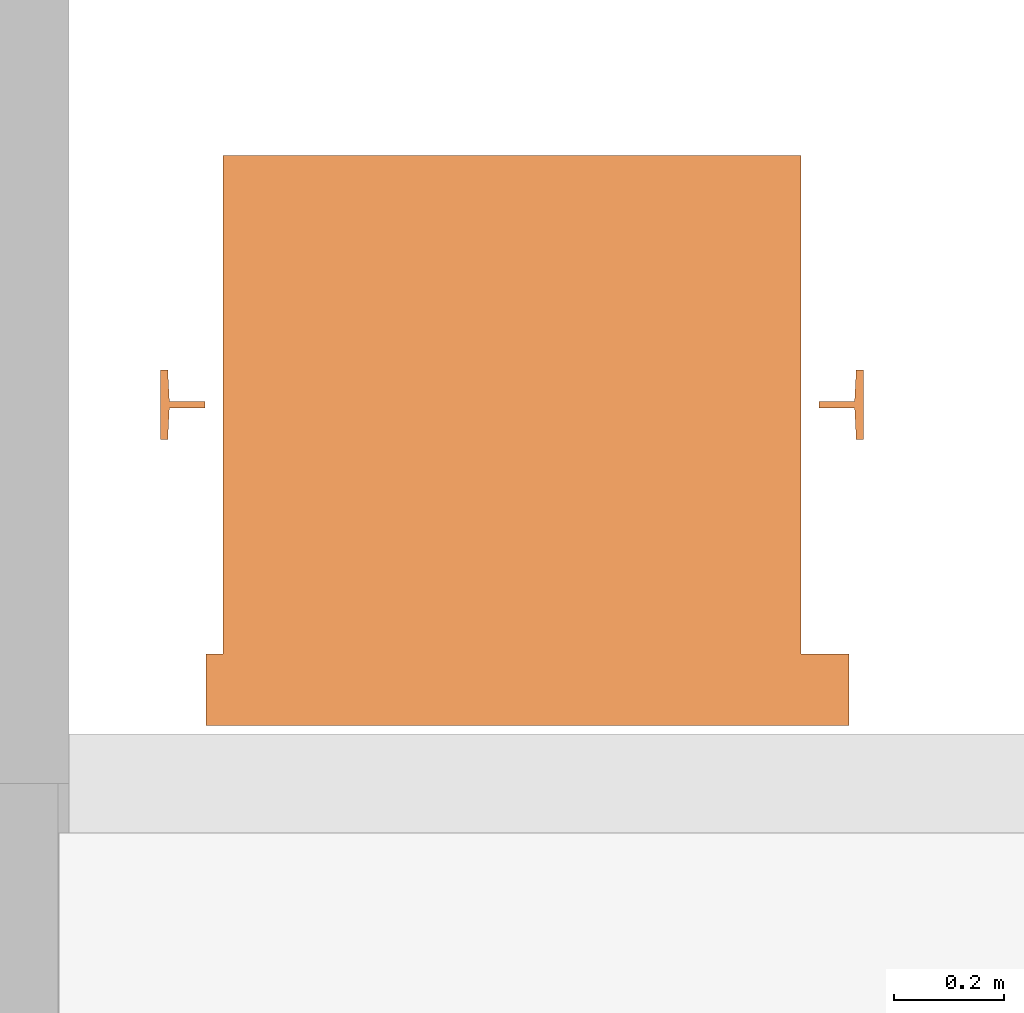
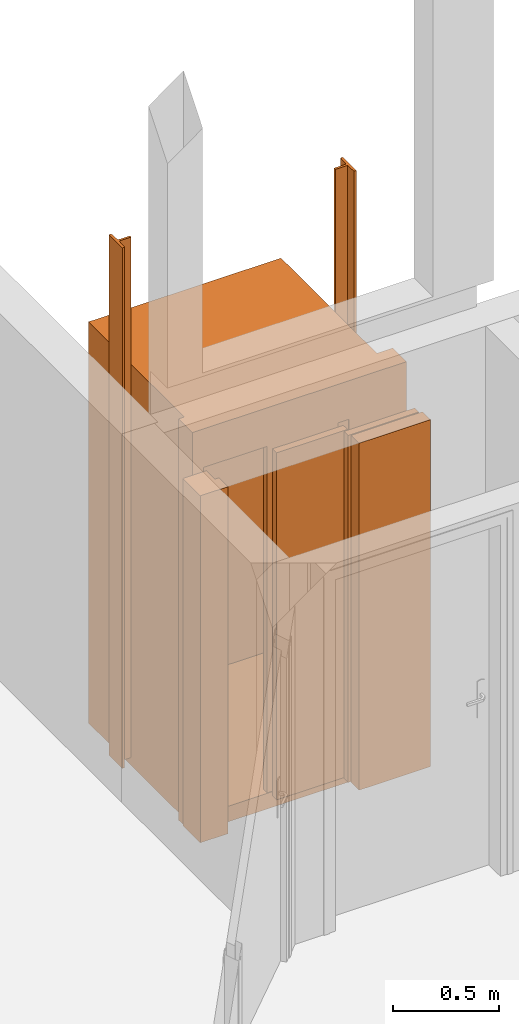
# One storey, part 28 of 32: 1 proxy.
"""IFC4 building model written with IfcOpenShell, lengths in metres."""

from ifc_helpers import new_model, entity, si_unit, converted_unit, derived_unit, direction, frame, origin, place, context, subcontext, project, spatial, polygons, source, transform, mapped, material, type_object, type_shapes, element, save


model = new_model("IFC4")

# Units and contexts
model_context = context("Model", 3, precision=1e-05, world=origin(), true_north=direction((6.12303176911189e-17, 1.0)))
body_context = subcontext(model_context, "Body", "Model", "MODEL_VIEW")
ifc_project = project(units=[si_unit("LENGTHUNIT", "METRE"), si_unit("AREAUNIT", "SQUARE_METRE"), si_unit("VOLUMEUNIT", "CUBIC_METRE"), converted_unit("PLANEANGLEUNIT", "DEGREE", entity("IfcRatioMeasure", 0.0174532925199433), si_unit("PLANEANGLEUNIT", "RADIAN"), dimensions=[0, 0, 0, 0, 0, 0, 0]), si_unit("MASSUNIT", "GRAM", prefix="KILO"), derived_unit("MASSDENSITYUNIT", [(si_unit("MASSUNIT", "GRAM", prefix="KILO"), 1), (si_unit("LENGTHUNIT", "METRE"), -3)]), derived_unit("MOMENTOFINERTIAUNIT", [(si_unit("LENGTHUNIT", "METRE"), 4)]), si_unit("TIMEUNIT", "SECOND"), si_unit("FREQUENCYUNIT", "HERTZ"), si_unit("THERMODYNAMICTEMPERATUREUNIT", "DEGREE_CELSIUS"), derived_unit("THERMALTRANSMITTANCEUNIT", [(si_unit("MASSUNIT", "GRAM", prefix="KILO"), 1), (si_unit("THERMODYNAMICTEMPERATUREUNIT", "KELVIN"), -1), (si_unit("TIMEUNIT", "SECOND"), -3)]), derived_unit("VOLUMETRICFLOWRATEUNIT", [(si_unit("LENGTHUNIT", "METRE"), 3), (si_unit("TIMEUNIT", "SECOND"), -1)]), si_unit("ELECTRICCURRENTUNIT", "AMPERE"), si_unit("ELECTRICVOLTAGEUNIT", "VOLT"), si_unit("POWERUNIT", "WATT"), si_unit("FORCEUNIT", "NEWTON", prefix="KILO"), si_unit("ILLUMINANCEUNIT", "LUX"), si_unit("LUMINOUSFLUXUNIT", "LUMEN"), si_unit("LUMINOUSINTENSITYUNIT", "CANDELA"), derived_unit("USERDEFINED", [(si_unit("MASSUNIT", "GRAM", prefix="KILO"), -1), (si_unit("LENGTHUNIT", "METRE"), -2), (si_unit("TIMEUNIT", "SECOND"), 3), (si_unit("LUMINOUSFLUXUNIT", "LUMEN"), 1)]), derived_unit("LINEARVELOCITYUNIT", [(si_unit("LENGTHUNIT", "METRE"), 1), (si_unit("TIMEUNIT", "SECOND"), -1)]), si_unit("PRESSUREUNIT", "PASCAL"), derived_unit("USERDEFINED", [(si_unit("LENGTHUNIT", "METRE"), -2), (si_unit("MASSUNIT", "GRAM", prefix="KILO"), 1), (si_unit("TIMEUNIT", "SECOND"), -2)]), derived_unit("LINEARFORCEUNIT", [(si_unit("MASSUNIT", "GRAM", prefix="KILO"), 1), (si_unit("LENGTHUNIT", "METRE"), 1), (si_unit("TIMEUNIT", "SECOND"), -2), (si_unit("LENGTHUNIT", "METRE"), -1)]), derived_unit("PLANARFORCEUNIT", [(si_unit("MASSUNIT", "GRAM", prefix="KILO"), 1), (si_unit("LENGTHUNIT", "METRE"), 1), (si_unit("TIMEUNIT", "SECOND"), -2), (si_unit("LENGTHUNIT", "METRE"), -2)])], contexts=[model_context])

# Site, building, storey
site_placement = place(None, origin())
site = spatial("IfcSite", under=ifc_project, at=site_placement, Name="Default", CompositionType="ELEMENT")
building_placement = place(site_placement, origin())
building = spatial("IfcBuilding", under=site, at=building_placement, Name="HOTEL CONSULAIRE BOULOGNE SUR MER", CompositionType="ELEMENT")
storey_placement = place(building_placement, frame((0.0, 0.0, -2.70343668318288)))
storey = spatial("IfcBuildingStorey", under=building, at=storey_placement, Name="SS1", CompositionType="ELEMENT", Elevation=-2.70343668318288)

# Proxy
ifc_material = material(Name="<Unnamed>")
building_element_proxy_type = type_object("IfcBuildingElementProxyType", Name="Ascenseur 4 personnes - Mur:1000 x 880mm", PredefinedType="NOTDEFINED", material=ifc_material)
shared_shape = source(origin(), body_context, "Body", "Tessellation", [
    polygons([(-0.400000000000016, -1.1400000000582, 2.222), (0.649999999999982, -1.14000000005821, 2.222), (0.649999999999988, -0.235000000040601, 2.222), (0.68100000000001, -0.235000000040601, 2.222), (0.681000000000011, -0.105000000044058, 2.222), (-0.486499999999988, -0.105000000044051, 2.222), (-0.486499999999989, -0.235000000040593, 2.222), (-0.40000000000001, -0.235000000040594, 2.222), (-0.400000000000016, -1.1400000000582, 2.2), (-0.40000000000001, -0.235000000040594, 2.2), (-0.486499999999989, -0.235000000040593, 2.2), (-0.486499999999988, -0.105000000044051, 2.2), (0.681000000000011, -0.105000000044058, 2.2), (0.68100000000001, -0.235000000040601, 2.2), (0.649999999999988, -0.235000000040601, 2.2), (0.649999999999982, -1.14000000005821, 2.2)], [[[8, 1, 2, 3, 4, 5, 6, 7]], [[15, 16, 9, 10, 11, 12, 13, 14]], [[2, 1, 9, 16]], [[4, 3, 15, 14]], [[8, 7, 11, 10]], [[3, 2, 16, 15]], [[5, 4, 14, 13]], [[6, 5, 13, 12]], [[7, 6, 12, 11]], [[1, 8, 10, 9]]], closed=True),
    polygons([(-0.400000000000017, -1.1400000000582, 0.0), (0.64999999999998, -1.14000000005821, 0.0), (0.649999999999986, -0.235000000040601, 0.0), (0.68100000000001, -0.235000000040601, 0.0), (0.681000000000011, -0.105000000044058, 0.0), (-0.486499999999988, -0.105000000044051, 0.0), (-0.486499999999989, -0.235000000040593, 0.0), (-0.400000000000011, -0.235000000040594, 0.0), (-0.400000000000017, -1.1400000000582, -0.09), (-0.400000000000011, -0.235000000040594, -0.09), (-0.486499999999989, -0.235000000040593, -0.09), (-0.486499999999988, -0.105000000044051, -0.09), (0.681000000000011, -0.105000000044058, -0.09), (0.68100000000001, -0.235000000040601, -0.09), (0.649999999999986, -0.235000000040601, -0.09), (0.64999999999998, -1.14000000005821, -0.09)], [[[8, 1, 2, 3, 4, 5, 6, 7]], [[15, 16, 9, 10, 11, 12, 13, 14]], [[2, 1, 9, 16]], [[4, 3, 15, 14]], [[8, 7, 11, 10]], [[3, 2, 16, 15]], [[5, 4, 14, 13]], [[6, 5, 13, 12]], [[7, 6, 12, 11]], [[1, 8, 10, 9]]], closed=True),
    polygons([(-0.400000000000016, -1.1400000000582, 2.2), (0.649999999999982, -1.14000000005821, 2.2), (0.649999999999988, -0.235000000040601, 2.2), (0.68100000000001, -0.235000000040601, 2.2), (0.681000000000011, -0.105000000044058, 2.2), (-0.486499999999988, -0.105000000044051, 2.2), (-0.486499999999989, -0.235000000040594, 2.2), (-0.40000000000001, -0.235000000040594, 2.2), (-0.375000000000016, -1.1150000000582, 2.2), (-0.375000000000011, -0.235000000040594, 2.2), (-0.110300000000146, -0.235000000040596, 2.2), (-0.110300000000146, -0.197000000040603, 2.2), (-0.458122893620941, -0.197000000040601, 2.2), (-0.45812289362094, -0.108958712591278, 2.2), (0.621169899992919, -0.108958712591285, 2.2), (0.621169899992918, -0.192683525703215, 2.2), (0.59999999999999, -0.192683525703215, 2.2), (0.599999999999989, -0.235000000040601, 2.2), (0.624999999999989, -0.235000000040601, 2.2), (0.624999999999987, -0.57250164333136, 2.2), (0.610245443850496, -0.572501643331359, 2.2), (0.610245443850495, -0.802501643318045, 2.2), (0.624999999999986, -0.802501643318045, 2.2), (0.624999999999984, -1.11500000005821, 2.2), (-0.400000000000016, -1.1400000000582, 0.0), (-0.40000000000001, -0.235000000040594, 0.0), (-0.486499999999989, -0.235000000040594, 0.0), (-0.486499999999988, -0.105000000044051, 0.0), (-0.173443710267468, -0.105000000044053, 0.0), (-0.173443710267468, -0.10895871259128, 0.0), (-0.45812289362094, -0.108958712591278, 0.0), (-0.458122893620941, -0.197000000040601, 0.0), (-0.110300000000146, -0.197000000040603, 0.0), (-0.110300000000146, -0.235000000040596, 0.0), (-0.375000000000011, -0.235000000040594, 0.0), (-0.375000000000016, -1.1150000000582, 0.0), (0.624999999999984, -1.11500000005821, 0.0), (0.624999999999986, -0.802501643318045, 0.0), (0.610245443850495, -0.802501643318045, 0.0), (0.610245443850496, -0.572501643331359, 0.0), (0.624999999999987, -0.57250164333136, 0.0), (0.624999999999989, -0.235000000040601, 0.0), (0.599999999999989, -0.235000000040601, 0.0), (0.59999999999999, -0.192683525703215, 0.0), (0.621169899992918, -0.192683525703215, 0.0), (0.621169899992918, -0.105000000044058, 0.0), (0.681000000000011, -0.105000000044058, 0.0), (0.68100000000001, -0.235000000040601, 0.0), (0.649999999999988, -0.235000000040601, 0.0), (0.649999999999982, -1.14000000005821, 0.0), (0.621169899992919, -0.105000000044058, 2.0), (-0.173443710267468, -0.105000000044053, 2.0), (-0.173443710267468, -0.10895871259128, 2.0), (0.621169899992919, -0.108958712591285, 2.0), (0.59999999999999, -0.192683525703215, 2.0)], [[[9, 10, 11, 12, 13, 14, 15, 16, 17, 18, 19, 20, 21, 22, 23, 24], [1, 2, 3, 4, 5, 6, 7, 8]], [[50, 25, 26, 27, 28, 29, 30, 31, 32, 33, 34, 35, 36, 37, 38, 39, 40, 41, 42, 43, 44, 45, 46, 47, 48, 49]], [[51, 54, 53, 52]], [[2, 1, 25, 50]], [[4, 3, 49, 48]], [[8, 7, 27, 26]], [[11, 10, 35, 34]], [[54, 15, 14, 31, 30, 53]], [[19, 18, 43, 42]], [[23, 22, 39, 38]], [[3, 2, 50, 49]], [[5, 4, 48, 47]], [[10, 9, 36, 35]], [[12, 11, 34, 33]], [[14, 13, 32, 31]], [[52, 53, 30, 29]], [[5, 47, 46, 51, 52, 29, 28, 6]], [[13, 12, 33, 32]], [[17, 16, 45, 44, 55]], [[21, 20, 41, 40]], [[9, 24, 37, 36]], [[7, 6, 28, 27]], [[1, 8, 26, 25]], [[54, 51, 46, 45, 16, 15]], [[18, 17, 55, 44, 43]], [[20, 19, 42, 41]], [[22, 21, 40, 39]], [[24, 23, 38, 37]]], closed=True),
    polygons([(-0.497026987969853, -0.693801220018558, 0.0), (-0.500026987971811, -0.75100121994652, 0.0), (-0.513026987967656, -0.75100121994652, 0.0), (-0.513026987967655, -0.624001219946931, 0.0), (-0.500026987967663, -0.624001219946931, 0.0), (-0.497113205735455, -0.681305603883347, 0.0), (-0.432026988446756, -0.681305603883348, 0.0), (-0.432026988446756, -0.693801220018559, 0.0), (-0.497026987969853, -0.693801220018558, 3.0), (-0.432026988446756, -0.693801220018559, 3.0), (-0.432026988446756, -0.681305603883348, 3.0), (-0.497113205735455, -0.681305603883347, 3.0), (-0.500026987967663, -0.624001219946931, 3.0), (-0.513026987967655, -0.624001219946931, 3.0), (-0.513026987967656, -0.75100121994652, 3.0), (-0.500026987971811, -0.75100121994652, 3.0)], [[[8, 1, 2, 3, 4, 5, 6, 7]], [[14, 15, 16, 9, 10, 11, 12, 13]], [[10, 9, 1, 8]], [[16, 15, 3, 2]], [[11, 10, 8, 7]], [[12, 11, 7, 6]], [[14, 13, 5, 4]], [[13, 12, 6, 5]], [[15, 14, 4, 3]], [[9, 16, 2, 1]]], closed=True),
    polygons([(0.750026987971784, -0.751001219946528, 3.0), (0.763026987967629, -0.751001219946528, 3.0), (0.76302698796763, -0.624001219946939, 3.0), (0.750026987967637, -0.624001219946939, 3.0), (0.747113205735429, -0.681305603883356, 3.0), (0.682026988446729, -0.681305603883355, 3.0), (0.682026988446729, -0.693801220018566, 3.0), (0.747026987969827, -0.693801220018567, 3.0), (0.750026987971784, -0.751001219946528, 0.0), (0.747026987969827, -0.693801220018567, 0.0), (0.682026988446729, -0.693801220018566, 0.0), (0.682026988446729, -0.681305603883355, 0.0), (0.747113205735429, -0.681305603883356, 0.0), (0.750026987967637, -0.624001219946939, 0.0), (0.76302698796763, -0.624001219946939, 0.0), (0.763026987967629, -0.751001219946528, 0.0)], [[[7, 8, 1, 2, 3, 4, 5, 6]], [[15, 16, 9, 10, 11, 12, 13, 14]], [[2, 1, 9, 16]], [[8, 7, 11, 10]], [[3, 2, 16, 15]], [[4, 3, 15, 14]], [[6, 5, 13, 12]], [[5, 4, 14, 13]], [[7, 6, 12, 11]], [[1, 8, 10, 9]]], closed=True),
    polygons([(-0.48862205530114, 0.00838938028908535, 0.0), (-0.10262205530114, 0.00838938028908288, 0.0), (-0.10262205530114, -0.0306106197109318, 0.0), (-0.48862205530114, -0.0306106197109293, 0.0), (-0.48862205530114, 0.00838938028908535, 2.0), (-0.48862205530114, -0.0306106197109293, 2.0), (-0.10262205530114, -0.0306106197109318, 2.0), (-0.10262205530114, 0.00838938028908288, 2.0)], [[[2, 3, 4, 1]], [[5, 6, 7, 8]], [[6, 5, 1, 4]], [[7, 6, 4, 3]], [[8, 7, 3, 2]], [[5, 8, 2, 1]]], closed=True),
    polygons([(-0.114830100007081, -0.144000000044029, 2.0), (0.271169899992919, -0.144000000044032, 2.0), (0.271169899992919, -0.108958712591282, 2.0), (-0.114830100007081, -0.108958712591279, 2.0), (-0.114830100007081, -0.144000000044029, 0.0), (-0.114830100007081, -0.108958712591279, 0.0), (0.271169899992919, -0.108958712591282, 0.0), (0.271169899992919, -0.144000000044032, 0.0)], [[[4, 1, 2, 3]], [[7, 8, 5, 6]], [[2, 1, 5, 8]], [[3, 2, 8, 7]], [[4, 3, 7, 6]], [[1, 4, 6, 5]]], closed=True),
    polygons([(-0.448622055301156, -0.190989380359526, 0.0), (-0.448622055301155, -0.149389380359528, 0.0), (-0.0626220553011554, -0.14938938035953, 0.0), (-0.0626220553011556, -0.190989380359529, 0.0), (-0.448622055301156, -0.190989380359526, 2.0), (-0.0626220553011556, -0.190989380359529, 2.0), (-0.0626220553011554, -0.14938938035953, 2.0), (-0.448622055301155, -0.149389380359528, 2.0)], [[[3, 4, 1, 2]], [[8, 5, 6, 7]], [[6, 5, 1, 4]], [[7, 6, 4, 3]], [[8, 7, 3, 2]], [[5, 8, 2, 1]]], closed=True),
    polygons([(-0.124830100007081, -0.0750000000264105, 0.0), (-0.124830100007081, -0.0360000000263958, 0.0), (0.261169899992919, -0.0360000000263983, 0.0), (0.261169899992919, -0.075000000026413, 0.0), (-0.124830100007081, -0.0750000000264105, 2.0), (0.261169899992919, -0.075000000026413, 2.0), (0.261169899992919, -0.0360000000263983, 2.0), (-0.124830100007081, -0.0360000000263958, 2.0)], [[[3, 4, 1, 2]], [[8, 5, 6, 7]], [[6, 5, 1, 4]], [[7, 6, 4, 3]], [[8, 7, 3, 2]], [[5, 8, 2, 1]]], closed=True),
    polygons([(0.599999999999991, 0.00499999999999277, 0.0), (0.599999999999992, 0.0900000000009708, 0.0), (0.750000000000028, 0.0900000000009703, 0.0), (0.750000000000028, -0.075000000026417, 0.0), (0.621169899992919, -0.0750000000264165, 0.0), (0.621169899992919, 0.0049999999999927, 0.0), (0.599999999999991, 0.00499999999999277, 2.0), (0.621169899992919, 0.0049999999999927, 2.0), (0.621169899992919, -0.0750000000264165, 2.0), (0.750000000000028, -0.075000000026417, 2.0), (0.750000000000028, 0.0900000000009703, 2.0), (0.599999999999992, 0.0900000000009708, 2.0)], [[[6, 1, 2, 3, 4, 5]], [[10, 11, 12, 7, 8, 9]], [[8, 7, 1, 6]], [[10, 9, 5, 4]], [[9, 8, 6, 5]], [[7, 12, 2, 1]], [[11, 10, 4, 3]], [[12, 11, 3, 2]]], closed=True),
    polygons([(-0.114979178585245, 0.0899999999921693, 2.0), (-0.505006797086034, 0.0900000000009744, 2.0), (-0.505006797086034, 0.0144785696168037, 2.0), (-0.114979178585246, 0.0144785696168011, 2.0), (-0.114979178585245, 0.0899999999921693, 0.0), (-0.114979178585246, 0.0144785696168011, 0.0), (-0.505006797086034, 0.0144785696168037, 0.0), (-0.505006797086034, 0.0900000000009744, 0.0)], [[[4, 1, 2, 3]], [[7, 8, 5, 6]], [[2, 1, 5, 8]], [[3, 2, 8, 7]], [[4, 3, 7, 6]], [[1, 4, 6, 5]]], closed=True),
])
type_shapes(building_element_proxy_type, [shared_shape])
proxy_placement = place(storey_placement, frame((8.23798026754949, -12.0607913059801, 0.0), z_axis=(0.0, 0.0, 1.0), x_axis=(-1.0, 0.0, 0.0)))
element("IfcBuildingElementProxy", 1, at=proxy_placement, inside=storey, type_object=building_element_proxy_type, Name="Ascenseur 4 personnes - Mur:1000 x 880mm", ObjectType="Ascenseur 4 personnes - Mur:1000 x 880mm", PredefinedType="NOTDEFINED", context=body_context, shape_type="MappedRepresentation", body=[
    mapped(shared_shape, transform((0.0, 0.0, 0.0), scale=1.0)),
])

save(model, "model.ifc")
